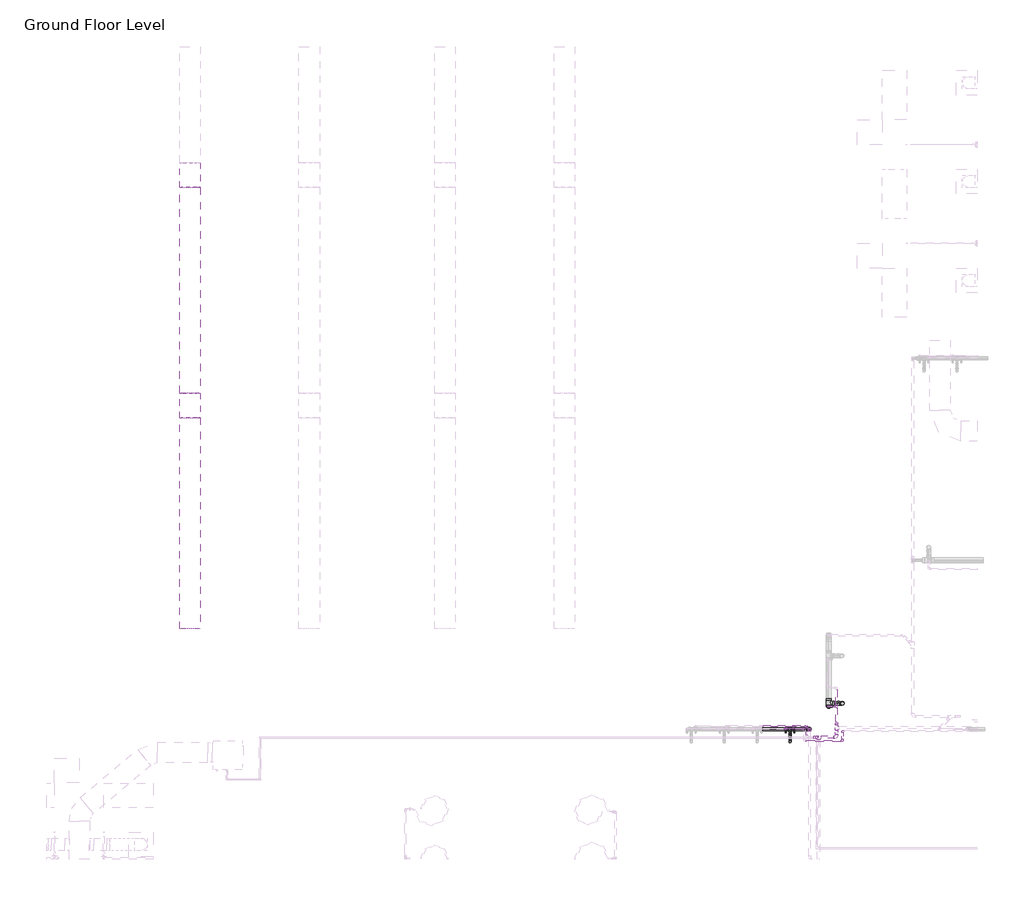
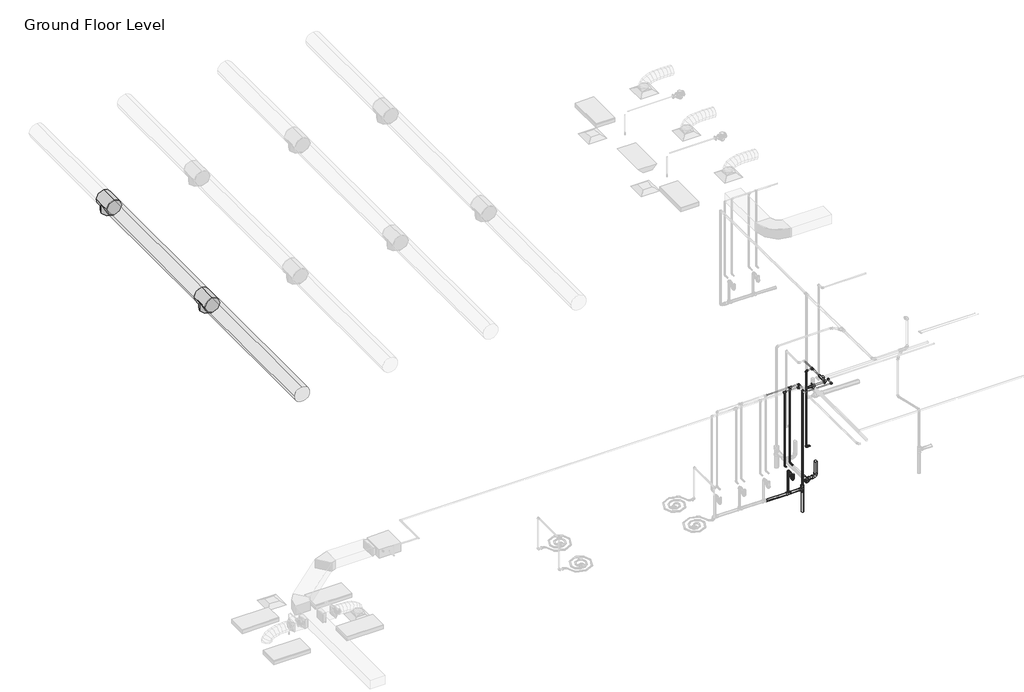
# One storey, part 8 of 72: 31 pipe fittings, 29 pipe segments, 2 duct fittings, 2 duct segments.
"""IFC4 building model written with IfcOpenShell, lengths in millimetres."""

from ifc_helpers import new_model, si_unit, point, frame, frame_2d, origin, place, context, project, spatial, circle_curve, trimmed, segment, composite_curve, outline, extrude, transform, mapped, element, save
from components import m_round_tee_standard_ed589d36, m_bend_pvc_sch_40_dwv_standard_a4b99d37, m_bend_pvc_sch_40_dwv_standard_1e7bdcc1, m_bend_pvc_sch_40_dwv_standard_776e50c4, m_bend_pvc_sch_40_dwv_standard_877aed9a, m_elbow_generic_standard_a088f956, m_elbow_generic_standard_2a704253, m_plug_pvc_sch_40_dwv_standard_6c40de1c, m_reducer_pvc_sch_40_dwv_standard_b84ad399, m_tee_reducing_sanitary_pvc_sch_40_dwv_standard_b49161a9, m_tee_reducing_sanitary_pvc_sch_40_dwv_standard_21d2848c, m_tee_reducing_sanitary_pvc_sch_40_dwv_standard_b574f8c1, standard_b266ab3f, standard_517a5a8d, standard_72b35c3b, standard_cd25fed3, standard_f1337950, standard_e954f56a, standard_57727813

model = new_model("IFC4")

# Units and contexts
model_context = context("Model", 3, world=origin())
ifc_project = project(units=[si_unit("LENGTHUNIT", "METRE", prefix="MILLI")], contexts=[model_context])

# Site, building, storey
site = spatial("IfcSite", under=ifc_project)
building = spatial("IfcBuilding", under=site)
storey = spatial("IfcBuildingStorey", under=building, Name="Ground Floor Level", Elevation=900.0)

# Duct fittings
placement = place(None, origin())
m_round_tee_standard_shape = m_round_tee_standard_ed589d36(model_context)
element("IfcDuctFitting", 1, ObjectType="M_Round Tee : Standard", at=placement, inside=storey, context=model_context, shape_type="MappedRepresentation", body=[
    mapped(m_round_tee_standard_shape, transform((-16150.3527512, -19404.784563, 7765.9063151), x_axis=(0.0, 0.9999999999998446, -5.576948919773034e-07), y_axis=(0.0, 5.576948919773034e-07, 0.9999999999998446), z_axis=(1.0, 0.0, 0.0))),
])
element("IfcDuctFitting", 2, ObjectType="M_Round Tee : Standard", at=placement, inside=storey, context=model_context, shape_type="MappedRepresentation", body=[
    mapped(m_round_tee_standard_shape, transform((-16150.3527512, -25004.784563, 7765.9094382), x_axis=(0.0, 0.9999999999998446, -5.576948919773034e-07), y_axis=(0.0, 5.576948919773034e-07, 0.9999999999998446), z_axis=(1.0, 0.0, 0.0))),
])

# Duct segments
element("IfcDuctSegment", 3, ObjectType="Tees", at=placement, inside=storey, context=model_context, shape_type="SweptSolid", body=[
    extrude(outline(composite_curve([segment(trimmed(circle_curve(frame_2d((7765.9092709, -16150.3527512)), 250.0), [point((7765.9092709, -15900.3527512))], [point((8015.9092709, -16150.3527512))], False, "CARTESIAN"), True, "CONTINUOUS"), segment(trimmed(circle_curve(frame_2d((7765.9092709, -16150.3527512)), 250.0), [point((8015.9092709, -16150.3527512))], [point((7765.9092709, -16400.3527512))], False, "CARTESIAN"), True, "CONTINUOUS"), segment(trimmed(circle_curve(frame_2d((7765.9092709, -16150.3527512)), 250.0), [point((7765.9092709, -16400.3527512))], [point((7515.9092709, -16150.3527512))], False, "CARTESIAN"), True, "CONTINUOUS"), segment(trimmed(circle_curve(frame_2d((7765.9092709, -16150.3527512)), 250.0), [point((7515.9092709, -16150.3527512))], [point((7765.9092709, -15900.3527512))], False, "CARTESIAN"), True, "CONTINUOUS")], self_intersect=False)), frame((0.0, -24704.784563, 0.0), z_axis=(0.0, 1.0, 0.0), x_axis=(0.0, 0.0, 1.0)), (0.0, 0.0, 1.0), 5000.0),
])
element("IfcDuctSegment", 4, ObjectType="Tees", at=placement, inside=storey, context=model_context, shape_type="SweptSolid", body=[
    extrude(outline(composite_curve([segment(trimmed(circle_curve(frame_2d((7765.9125, -16150.3527512)), 250.0), [point((7765.9125, -15900.3527512))], [point((8015.9125, -16150.3527512))], False, "CARTESIAN"), True, "CONTINUOUS"), segment(trimmed(circle_curve(frame_2d((7765.9125, -16150.3527512)), 250.0), [point((8015.9125, -16150.3527512))], [point((7765.9125, -16400.3527512))], False, "CARTESIAN"), True, "CONTINUOUS"), segment(trimmed(circle_curve(frame_2d((7765.9125, -16150.3527512)), 250.0), [point((7765.9125, -16400.3527512))], [point((7515.9125, -16150.3527512))], False, "CARTESIAN"), True, "CONTINUOUS"), segment(trimmed(circle_curve(frame_2d((7765.9125, -16150.3527512)), 250.0), [point((7515.9125, -16150.3527512))], [point((7765.9125, -15900.3527512))], False, "CARTESIAN"), True, "CONTINUOUS")], self_intersect=False)), frame((0.0, -30422.0587669, 0.0), z_axis=(0.0, 1.0, 0.0), x_axis=(0.0, 0.0, 1.0)), (0.0, 0.0, 1.0), 5117.2742039),
])

# Pipe fittings
m_bend_pvc_sch_40_dwv_standard_shape = m_bend_pvc_sch_40_dwv_standard_a4b99d37(model_context)
element("IfcPipeFitting", 5, ObjectType="M_Bend - PVC - Sch 40 - DWV : Standard", at=placement, inside=storey, context=model_context, shape_type="MappedRepresentation", body=[
    mapped(m_bend_pvc_sch_40_dwv_standard_shape, transform((-303.6900633, -32234.266625, 475.9254106), x_axis=(0.0, 0.0, -1.0), y_axis=(-1.0, 0.0, 0.0), z_axis=(0.0, 1.0, 0.0))),
])
m_bend_pvc_sch_40_dwv_standard_2_shape = m_bend_pvc_sch_40_dwv_standard_1e7bdcc1(model_context)
element("IfcPipeFitting", 6, ObjectType="M_Bend - PVC - Sch 40 - DWV : Standard", at=placement, inside=storey, context=model_context, shape_type="MappedRepresentation", body=[
    mapped(m_bend_pvc_sch_40_dwv_standard_2_shape, transform((-1573.215321, -32858.7119065, 1488.3035905), x_axis=(0.0, 0.9999500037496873, -0.009999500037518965), y_axis=(0.0, -0.009999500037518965, -0.9999500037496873), z_axis=(-1.0, 0.0, 0.0))),
])
element("IfcPipeFitting", 7, ObjectType="M_Bend - PVC - Sch 40 - DWV : Standard", at=placement, inside=storey, context=model_context, shape_type="MappedRepresentation", body=[
    mapped(m_bend_pvc_sch_40_dwv_standard_2_shape, transform((-1573.215321, -33168.3528578, 1345.0), x_axis=(0.0, -0.9999500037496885, 0.009999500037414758), y_axis=(0.0, 0.009999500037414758, 0.9999500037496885), z_axis=(-1.0, 0.0, 0.0))),
])
m_bend_pvc_sch_40_dwv_standard_3_shape = m_bend_pvc_sch_40_dwv_standard_776e50c4(model_context)
element("IfcPipeFitting", 8, ObjectType="M_Bend - PVC - Sch 40 - DWV : Standard", at=placement, inside=storey, context=model_context, shape_type="MappedRepresentation", body=[
    mapped(m_bend_pvc_sch_40_dwv_standard_3_shape, transform((-1573.215321, -33033.3528578, 1343.6), x_axis=(0.0, 0.9999500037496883, -0.009999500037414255), y_axis=(0.0, 0.009999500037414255, 0.9999500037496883), z_axis=(1.0, 0.0, 0.0))),
])
element("IfcPipeFitting", 9, ObjectType="M_Bend - PVC - Sch 40 - DWV : Standard", at=placement, inside=storey, context=model_context, shape_type="MappedRepresentation", body=[
    mapped(m_bend_pvc_sch_40_dwv_standard_3_shape, transform((-1573.215321, -33033.3528578, 1490.0), x_axis=(0.0, 0.0, 1.0), y_axis=(0.0, 1.0, 0.0), z_axis=(-1.0, 0.0, 0.0))),
])
m_bend_pvc_sch_40_dwv_standard_4_shape = m_bend_pvc_sch_40_dwv_standard_877aed9a(model_context)
element("IfcPipeFitting", 10, ObjectType="M_Bend - PVC - Sch 40 - DWV : Standard", at=placement, inside=storey, context=model_context, shape_type="MappedRepresentation", body=[
    mapped(m_bend_pvc_sch_40_dwv_standard_4_shape, transform((-1099.4034743, -32858.7119242, 4127.038), x_axis=(0.0, 0.0, 1.0), y_axis=(0.0, -1.0, 0.0), z_axis=(1.0, 0.0, 0.0))),
])
m_elbow_generic_standard_shape = m_elbow_generic_standard_a088f956(model_context)
element("IfcPipeFitting", 11, ObjectType="M_Elbow - Generic : Standard", at=placement, inside=storey, context=model_context, shape_type="MappedRepresentation", body=[
    mapped(m_elbow_generic_standard_shape, transform((-897.1048173, -33050.466218, 4390.0), x_axis=(0.0, 1.0, 0.0), y_axis=(-1.0, 0.0, 0.0), z_axis=(0.0, 0.0, 1.0))),
])
m_elbow_generic_standard_2_shape = m_elbow_generic_standard_2a704253(model_context)
element("IfcPipeFitting", 12, ObjectType="M_Elbow - Generic : Standard", at=placement, inside=storey, context=model_context, shape_type="MappedRepresentation", body=[
    mapped(m_elbow_generic_standard_2_shape, transform((-941.0095887, -33088.5402522, 4377.5), x_axis=(0.0, 1.0, 0.0), y_axis=(-1.0, 0.0, 0.0), z_axis=(0.0, 0.0, 1.0))),
])
m_plug_pvc_sch_40_dwv_standard_shape = m_plug_pvc_sch_40_dwv_standard_6c40de1c(model_context)
element("IfcPipeFitting", 13, ObjectType="M_Plug - PVC - Sch 40 - DWV : Standard", at=placement, inside=storey, context=model_context, shape_type="MappedRepresentation", body=[
    mapped(m_plug_pvc_sch_40_dwv_standard_shape, transform((-633.5600391, -32323.1621803, 476.8143661), x_axis=(0.0, -0.9999500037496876, 0.009999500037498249), y_axis=(1.0000000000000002, 0.0, 0.0), z_axis=(0.0, 0.009999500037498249, 0.9999500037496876))),
])
m_reducer_pvc_sch_40_dwv_standard_shape = m_reducer_pvc_sch_40_dwv_standard_b84ad399(model_context)
element("IfcPipeFitting", 14, ObjectType="M_Reducer - PVC - Sch 40 - DWV : Standard", at=placement, inside=storey, context=model_context, shape_type="MappedRepresentation", body=[
    mapped(m_reducer_pvc_sch_40_dwv_standard_shape, transform((-1099.4034743, -32858.6819272, 783.2824384), x_axis=(0.0, 0.0, 1.0), y_axis=(-1.0, 0.0, 0.0), z_axis=(0.0, -1.0, 0.0))),
])
m_tee_reducing_sanitary_pvc_sch_40_dwv_standard_shape = m_tee_reducing_sanitary_pvc_sch_40_dwv_standard_b49161a9(model_context)
element("IfcPipeFitting", 15, ObjectType="M_Tee Reducing Sanitary - PVC - Sch 40 - DWV : Standard", at=placement, inside=storey, context=model_context, shape_type="MappedRepresentation", body=[
    mapped(m_tee_reducing_sanitary_pvc_sch_40_dwv_standard_shape, transform((-633.5600391, -32234.266625, 475.9254106), x_axis=(0.0, -0.9999500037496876, 0.009999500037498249), y_axis=(-1.0000000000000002, 0.0, 0.0), z_axis=(0.0, -0.009999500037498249, -0.9999500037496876))),
])
m_tee_reducing_sanitary_pvc_sch_40_dwv_standard_2_shape = m_tee_reducing_sanitary_pvc_sch_40_dwv_standard_21d2848c(model_context)
element("IfcPipeFitting", 16, ObjectType="M_Tee Reducing Sanitary - PVC - Sch 40 - DWV : Standard", at=placement, inside=storey, context=model_context, shape_type="MappedRepresentation", body=[
    mapped(m_tee_reducing_sanitary_pvc_sch_40_dwv_standard_2_shape, transform((-1573.215321, -32858.7119065, 694.4349821), x_axis=(-0.9999500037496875, 0.0, 0.009999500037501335), y_axis=(-0.009999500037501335, 0.0, -0.9999500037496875), z_axis=(0.0, -1.0, 0.0))),
])
m_tee_reducing_sanitary_pvc_sch_40_dwv_standard_3_shape = m_tee_reducing_sanitary_pvc_sch_40_dwv_standard_b574f8c1(model_context)
element("IfcPipeFitting", 17, ObjectType="M_Tee Reducing Sanitary - PVC - Sch 40 - DWV : Standard", at=placement, inside=storey, context=model_context, shape_type="MappedRepresentation", body=[
    mapped(m_tee_reducing_sanitary_pvc_sch_40_dwv_standard_3_shape, transform((-1099.4034743, -32858.6819272, 689.7), x_axis=(0.0, 0.0, 1.0), y_axis=(1.0, 0.0, 0.0), z_axis=(0.0, 1.0, 0.0))),
])
standard_shape = standard_b266ab3f(model_context)
element("IfcPipeFitting", 18, ObjectType="M_Elbow - CPVC - Sch 40 : Standard", at=placement, inside=storey, context=model_context, shape_type="MappedRepresentation", body=[
    mapped(standard_shape, transform((-1468.9004005, -32789.6855451, 1690.0), x_axis=(0.0, 0.0, -1.0), y_axis=(0.0, -1.0, 0.0), z_axis=(-1.0, 0.0, 0.0))),
])
element("IfcPipeFitting", 19, ObjectType="M_Elbow - CPVC - Sch 40 : Standard", at=placement, inside=storey, context=model_context, shape_type="MappedRepresentation", body=[
    mapped(standard_shape, transform((-1677.5302417, -32850.870708, 1690.0), x_axis=(0.0, 0.0, -1.0), y_axis=(0.0, -1.0, 0.0), z_axis=(-1.0, 0.0, 0.0))),
])
standard_2_shape = standard_517a5a8d(model_context)
element("IfcPipeFitting", 20, ObjectType="M_Elbow - CPVC - Sch 40 : Standard", at=placement, inside=storey, context=model_context, shape_type="MappedRepresentation", body=[
    mapped(standard_2_shape, transform((-657.2327605, -32307.7053912, 1655.0), x_axis=(-1.0, 0.0, 0.0), y_axis=(0.0, 0.0, 1.0), z_axis=(0.0, 1.0, 0.0))),
])
element("IfcPipeFitting", 21, ObjectType="M_Elbow - CPVC - Sch 40 : Standard", at=placement, inside=storey, context=model_context, shape_type="MappedRepresentation", body=[
    mapped(standard_2_shape, transform((-657.2327605, -32307.7053912, 4300.0), x_axis=(0.0, 0.0, 1.0), y_axis=(1.0, 0.0, 0.0), z_axis=(0.0, 1.0, 0.0))),
])
element("IfcPipeFitting", 22, ObjectType="M_Elbow - CPVC - Sch 40 : Standard", at=placement, inside=storey, context=model_context, shape_type="MappedRepresentation", body=[
    mapped(standard_2_shape, transform((-1167.2327605, -32789.6855451, 4300.0), x_axis=(0.0, 1.0, 0.0), y_axis=(-1.0, 0.0, 0.0), z_axis=(0.0, 0.0, 1.0))),
])
element("IfcPipeFitting", 23, ObjectType="M_Elbow - CPVC - Sch 40 : Standard", at=placement, inside=storey, context=model_context, shape_type="MappedRepresentation", body=[
    mapped(standard_2_shape, transform((-299.4424198, -32905.870708, 4250.0), x_axis=(-1.0, 0.0, 0.0), y_axis=(0.0, -1.0, 0.0), z_axis=(0.0, 0.0, 1.0))),
])
element("IfcPipeFitting", 24, ObjectType="M_Elbow - CPVC - Sch 40 : Standard", at=placement, inside=storey, context=model_context, shape_type="MappedRepresentation", body=[
    mapped(standard_2_shape, transform((-299.4424198, -33150.870708, 4250.0), x_axis=(1.0, 0.0, 0.0), y_axis=(0.0, 1.0, 0.0), z_axis=(0.0, 0.0, 1.0))),
])
element("IfcPipeFitting", 25, ObjectType="M_Elbow - CPVC - Sch 40 : Standard", at=placement, inside=storey, context=model_context, shape_type="MappedRepresentation", body=[
    mapped(standard_2_shape, transform((-1219.9877664, -32850.870708, 4250.0), x_axis=(0.0, 1.0, 0.0), y_axis=(-1.0, 0.0, 0.0), z_axis=(0.0, 0.0, 1.0))),
])
standard_3_shape = standard_72b35c3b(model_context)
element("IfcPipeFitting", 26, ObjectType="M_Tee - CPVC - Sch 40 : Standard", at=placement, inside=storey, context=model_context, shape_type="MappedRepresentation", body=[
    mapped(standard_3_shape, transform((-447.2327605, -32307.7053912, 4300.0), x_axis=(0.0, 1.0, 0.0), y_axis=(1.0, 0.0, 0.0), z_axis=(0.0, 0.0, -1.0))),
])
element("IfcPipeFitting", 27, ObjectType="M_Tee - CPVC - Sch 40 : Standard", at=placement, inside=storey, context=model_context, shape_type="MappedRepresentation", body=[
    mapped(standard_3_shape, transform((-1468.9004005, -32789.6855451, 4300.0), x_axis=(1.0, 0.0, 0.0), y_axis=(0.0, 0.0, 1.0), z_axis=(0.0, -1.0, 0.0))),
])
element("IfcPipeFitting", 28, ObjectType="M_Tee - CPVC - Sch 40 : Standard", at=placement, inside=storey, context=model_context, shape_type="MappedRepresentation", body=[
    mapped(standard_3_shape, transform((-1677.5302417, -32850.870708, 4250.0), x_axis=(1.0, 0.0, 0.0), y_axis=(0.0, 0.0, 1.0), z_axis=(0.0, -1.0, 0.0))),
])
standard_4_shape = standard_cd25fed3(model_context)
element("IfcPipeFitting", 29, ObjectType="M_Tee - CPVC - Sch 40 : Standard", at=placement, inside=storey, context=model_context, shape_type="MappedRepresentation", body=[
    mapped(standard_4_shape, transform((-447.2327605, -32824.9853451, 4300.0), x_axis=(0.0, -1.0, 0.0), y_axis=(-1.0, 0.0, 0.0), z_axis=(0.0, 0.0, -1.0))),
])
element("IfcPipeFitting", 30, ObjectType="M_Tee - CPVC - Sch 40 : Standard", at=placement, inside=storey, context=model_context, shape_type="MappedRepresentation", body=[
    mapped(standard_4_shape, transform((-881.5205995, -33054.6855451, 4300.0), x_axis=(1.0, 0.0, 0.0), y_axis=(0.0, 1.0, 0.0), z_axis=(0.0, 0.0, 1.0))),
])
standard_5_shape = standard_f1337950(model_context)
element("IfcPipeFitting", 31, ObjectType="M_Coupling Reducing - CPVC - Sch 40 : Standard", at=placement, inside=storey, context=model_context, shape_type="MappedRepresentation", body=[
    mapped(standard_5_shape, transform((-948.1955995, -33054.6855451, 4300.0), x_axis=(-1.0, 0.0, 0.0), y_axis=(0.0, -1.0, 0.0), z_axis=(0.0, 0.0, 1.0))),
])
element("IfcPipeFitting", 32, ObjectType="M_Coupling Reducing - CPVC - Sch 40 : Standard", at=placement, inside=storey, context=model_context, shape_type="MappedRepresentation", body=[
    mapped(standard_5_shape, transform((-447.2327605, -32758.3103451, 4300.0), x_axis=(0.0, 1.0, 0.0), y_axis=(-1.0, 0.0, 0.0), z_axis=(0.0, 0.0, 1.0))),
])
standard_6_shape = standard_e954f56a(model_context)
element("IfcPipeFitting", 33, ObjectType="M_Coupling Reducing - CPVC - Sch 40 : Standard", at=placement, inside=storey, context=model_context, shape_type="MappedRepresentation", body=[
    mapped(standard_6_shape, transform((-1468.9004005, -32789.6855451, 4260.2998), x_axis=(0.0, 0.0, -1.0), y_axis=(1.0, 0.0, 0.0), z_axis=(0.0, -1.0, 0.0))),
])
element("IfcPipeFitting", 34, ObjectType="M_Coupling Reducing - CPVC - Sch 40 : Standard", at=placement, inside=storey, context=model_context, shape_type="MappedRepresentation", body=[
    mapped(standard_6_shape, transform((-1677.5302417, -32850.870708, 4210.2998), x_axis=(0.0, 0.0, -1.0), y_axis=(1.0, 0.0, 0.0), z_axis=(0.0, -1.0, 0.0))),
])
standard_7_shape = standard_57727813(model_context)
element("IfcPipeFitting", 35, ObjectType="M_Elbow - CPVC - Sch 40 : Standard", at=placement, inside=storey, context=model_context, shape_type="MappedRepresentation", body=[
    mapped(standard_7_shape, transform((-447.2327605, -33054.6855451, 4300.0), x_axis=(1.0, 0.0, 0.0), y_axis=(0.0, 1.0, 0.0), z_axis=(0.0, 0.0, 1.0))),
])

# Pipe segments
element("IfcPipeSegment", 36, ObjectType="CPVC", at=placement, inside=storey, context=model_context, shape_type="SweptSolid", body=[
    extrude(outline(composite_curve([segment(trimmed(circle_curve(frame_2d((4300.0, -447.2327605)), 16.7005), [point((4300.0, -463.9332605))], [point((4283.2995, -447.2327605))], False, "CARTESIAN"), True, "CONTINUOUS"), segment(trimmed(circle_curve(frame_2d((4300.0, -447.2327605)), 16.7005), [point((4283.2995, -447.2327605))], [point((4300.0, -430.5322605))], False, "CARTESIAN"), True, "CONTINUOUS"), segment(trimmed(circle_curve(frame_2d((4300.0, -447.2327605)), 16.7005), [point((4300.0, -430.5322605))], [point((4316.7005, -447.2327605))], False, "CARTESIAN"), True, "CONTINUOUS"), segment(trimmed(circle_curve(frame_2d((4300.0, -447.2327605)), 16.7005), [point((4316.7005, -447.2327605))], [point((4300.0, -463.9332605))], False, "CARTESIAN"), True, "CONTINUOUS")], self_intersect=False)), frame((0.0, -32678.5114701, 0.0), z_axis=(0.0, 1.0, 0.0), x_axis=(0.0, 0.0, 1.0)), (0.0, 0.0, 1.0), 331.1058789),
])
element("IfcPipeSegment", 37, ObjectType="CPVC", at=placement, inside=storey, context=model_context, shape_type="SweptSolid", body=[
    extrude(outline(composite_curve([segment(trimmed(circle_curve(frame_2d((-32307.7053912, 1655.0)), 16.7005), [point((-32291.0048912, 1655.0))], [point((-32307.7053912, 1638.2995))], False, "CARTESIAN"), True, "CONTINUOUS"), segment(trimmed(circle_curve(frame_2d((-32307.7053912, 1655.0)), 16.7005), [point((-32307.7053912, 1638.2995))], [point((-32324.4058912, 1655.0))], False, "CARTESIAN"), True, "CONTINUOUS"), segment(trimmed(circle_curve(frame_2d((-32307.7053912, 1655.0)), 16.7005), [point((-32324.4058912, 1655.0))], [point((-32307.7053912, 1671.7005))], False, "CARTESIAN"), True, "CONTINUOUS"), segment(trimmed(circle_curve(frame_2d((-32307.7053912, 1655.0)), 16.7005), [point((-32307.7053912, 1671.7005))], [point((-32291.0048912, 1655.0))], False, "CARTESIAN"), True, "CONTINUOUS")], self_intersect=False)), frame((-613.9702105, 0.0, 0.0), z_axis=(1.0, 0.0, 0.0), x_axis=(0.0, 1.0, 0.0)), (0.0, 0.0, 1.0), 76.73745),
])
element("IfcPipeSegment", 38, ObjectType="CPVC", at=placement, inside=storey, context=model_context, shape_type="SweptSolid", body=[
    extrude(outline(composite_curve([segment(trimmed(circle_curve(frame_2d((-32307.7053912, 4300.0)), 16.7005), [point((-32291.0048912, 4300.0))], [point((-32307.7053912, 4283.2995))], False, "CARTESIAN"), True, "CONTINUOUS"), segment(trimmed(circle_curve(frame_2d((-32307.7053912, 4300.0)), 16.7005), [point((-32307.7053912, 4283.2995))], [point((-32324.4058912, 4300.0))], False, "CARTESIAN"), True, "CONTINUOUS"), segment(trimmed(circle_curve(frame_2d((-32307.7053912, 4300.0)), 16.7005), [point((-32324.4058912, 4300.0))], [point((-32307.7053912, 4316.7005))], False, "CARTESIAN"), True, "CONTINUOUS"), segment(trimmed(circle_curve(frame_2d((-32307.7053912, 4300.0)), 16.7005), [point((-32307.7053912, 4316.7005))], [point((-32291.0048912, 4300.0))], False, "CARTESIAN"), True, "CONTINUOUS")], self_intersect=False)), frame((-613.9702105, 0.0, 0.0), z_axis=(1.0, 0.0, 0.0), x_axis=(0.0, 1.0, 0.0)), (0.0, 0.0, 1.0), 127.03725),
])
element("IfcPipeSegment", 39, ObjectType="CPVC", at=placement, inside=storey, context=model_context, shape_type="SweptSolid", body=[
    extrude(outline(composite_curve([segment(trimmed(circle_curve(frame_2d((-657.2327605, -32307.7053912)), 16.7005), [point((-673.9332605, -32307.7053912))], [point((-657.2327605, -32291.0048912))], False, "CARTESIAN"), True, "CONTINUOUS"), segment(trimmed(circle_curve(frame_2d((-657.2327605, -32307.7053912)), 16.7005), [point((-657.2327605, -32291.0048912))], [point((-640.5322605, -32307.7053912))], False, "CARTESIAN"), True, "CONTINUOUS"), segment(trimmed(circle_curve(frame_2d((-657.2327605, -32307.7053912)), 16.7005), [point((-640.5322605, -32307.7053912))], [point((-657.2327605, -32324.4058912))], False, "CARTESIAN"), True, "CONTINUOUS"), segment(trimmed(circle_curve(frame_2d((-657.2327605, -32307.7053912)), 16.7005), [point((-657.2327605, -32324.4058912))], [point((-673.9332605, -32307.7053912))], False, "CARTESIAN"), True, "CONTINUOUS")], self_intersect=False)), frame((0.0, 0.0, 1698.26255), z_axis=(0.0, 0.0, 1.0), x_axis=(1.0, 0.0, 0.0)), (0.0, 0.0, 1.0), 2558.4749),
])
element("IfcPipeSegment", 40, ObjectType="CPVC", at=placement, inside=storey, context=model_context, shape_type="SweptSolid", body=[
    extrude(outline(composite_curve([segment(trimmed(circle_curve(frame_2d((4300.0, -447.2327605)), 16.7005), [point((4300.0, -463.9332605))], [point((4283.2995, -447.2327605))], False, "CARTESIAN"), True, "CONTINUOUS"), segment(trimmed(circle_curve(frame_2d((4300.0, -447.2327605)), 16.7005), [point((4283.2995, -447.2327605))], [point((4300.0, -430.5322605))], False, "CARTESIAN"), True, "CONTINUOUS"), segment(trimmed(circle_curve(frame_2d((4300.0, -447.2327605)), 16.7005), [point((4300.0, -430.5322605))], [point((4316.7005, -447.2327605))], False, "CARTESIAN"), True, "CONTINUOUS"), segment(trimmed(circle_curve(frame_2d((4300.0, -447.2327605)), 16.7005), [point((4316.7005, -447.2327605))], [point((4300.0, -463.9332605))], False, "CARTESIAN"), True, "CONTINUOUS")], self_intersect=False)), frame((0.0, -32268.0051912, 0.0), z_axis=(0.0, 1.0, 0.0), x_axis=(0.0, 0.0, 1.0)), (0.0, 0.0, 1.0), 369.7572961),
])
element("IfcPipeSegment", 41, ObjectType="CPVC", at=placement, inside=storey, context=model_context, shape_type="SweptSolid", body=[
    extrude(outline(composite_curve([segment(trimmed(circle_curve(frame_2d((4300.0, -447.2327605)), 30.1625), [point((4300.0, -477.3952605))], [point((4269.8375, -447.2327605))], False, "CARTESIAN"), True, "CONTINUOUS"), segment(trimmed(circle_curve(frame_2d((4300.0, -447.2327605)), 30.1625), [point((4269.8375, -447.2327605))], [point((4300.0, -417.0702605))], False, "CARTESIAN"), True, "CONTINUOUS"), segment(trimmed(circle_curve(frame_2d((4300.0, -447.2327605)), 30.1625), [point((4300.0, -417.0702605))], [point((4330.1625, -447.2327605))], False, "CARTESIAN"), True, "CONTINUOUS"), segment(trimmed(circle_curve(frame_2d((4300.0, -447.2327605)), 30.1625), [point((4330.1625, -447.2327605))], [point((4300.0, -477.3952605))], False, "CARTESIAN"), True, "CONTINUOUS")], self_intersect=False)), frame((0.0, -32990.3917951, 0.0), z_axis=(0.0, 1.0, 0.0), x_axis=(0.0, 0.0, 1.0)), (0.0, 0.0, 1.0), 98.73145),
])
element("IfcPipeSegment", 42, ObjectType="CPVC", at=placement, inside=storey, context=model_context, shape_type="SweptSolid", body=[
    extrude(outline(composite_curve([segment(trimmed(circle_curve(frame_2d((4300.0, -1167.2327605)), 16.7005), [point((4300.0, -1150.5322605))], [point((4316.7005, -1167.2327605))], False, "CARTESIAN"), True, "CONTINUOUS"), segment(trimmed(circle_curve(frame_2d((4300.0, -1167.2327605)), 16.7005), [point((4316.7005, -1167.2327605))], [point((4300.0, -1183.9332605))], False, "CARTESIAN"), True, "CONTINUOUS"), segment(trimmed(circle_curve(frame_2d((4300.0, -1167.2327605)), 16.7005), [point((4300.0, -1183.9332605))], [point((4283.2995, -1167.2327605))], False, "CARTESIAN"), True, "CONTINUOUS"), segment(trimmed(circle_curve(frame_2d((4300.0, -1167.2327605)), 16.7005), [point((4283.2995, -1167.2327605))], [point((4300.0, -1150.5322605))], False, "CARTESIAN"), True, "CONTINUOUS")], self_intersect=False)), frame((0.0, -33011.4229951, 0.0), z_axis=(0.0, 1.0, 0.0), x_axis=(0.0, 0.0, 1.0)), (0.0, 0.0, 1.0), 178.4749),
])
element("IfcPipeSegment", 43, ObjectType="CPVC", at=placement, inside=storey, context=model_context, shape_type="SweptSolid", body=[
    extrude(outline(composite_curve([segment(trimmed(circle_curve(frame_2d((1690.0, -1468.9004005)), 13.335), [point((1690.0, -1482.2354005))], [point((1676.665, -1468.9004005))], False, "CARTESIAN"), True, "CONTINUOUS"), segment(trimmed(circle_curve(frame_2d((1690.0, -1468.9004005)), 13.335), [point((1676.665, -1468.9004005))], [point((1690.0, -1455.5654005))], False, "CARTESIAN"), True, "CONTINUOUS"), segment(trimmed(circle_curve(frame_2d((1690.0, -1468.9004005)), 13.335), [point((1690.0, -1455.5654005))], [point((1703.335, -1468.9004005))], False, "CARTESIAN"), True, "CONTINUOUS"), segment(trimmed(circle_curve(frame_2d((1690.0, -1468.9004005)), 13.335), [point((1703.335, -1468.9004005))], [point((1690.0, -1482.2354005))], False, "CARTESIAN"), True, "CONTINUOUS")], self_intersect=False)), frame((0.0, -32944.7846466, 0.0), z_axis=(0.0, 1.0, 0.0), x_axis=(0.0, 0.0, 1.0)), (0.0, 0.0, 1.0), 119.7740515),
])
element("IfcPipeSegment", 44, ObjectType="CPVC", at=placement, inside=storey, context=model_context, shape_type="SweptSolid", body=[
    extrude(outline(composite_curve([segment(trimmed(circle_curve(frame_2d((-1468.9004005, -32789.6855451)), 13.335), [point((-1455.5654005, -32789.6855451))], [point((-1468.9004005, -32803.0205451))], False, "CARTESIAN"), True, "CONTINUOUS"), segment(trimmed(circle_curve(frame_2d((-1468.9004005, -32789.6855451)), 13.335), [point((-1468.9004005, -32803.0205451))], [point((-1482.2354005, -32789.6855451))], False, "CARTESIAN"), True, "CONTINUOUS"), segment(trimmed(circle_curve(frame_2d((-1468.9004005, -32789.6855451)), 13.335), [point((-1482.2354005, -32789.6855451))], [point((-1468.9004005, -32776.3505451))], False, "CARTESIAN"), True, "CONTINUOUS"), segment(trimmed(circle_curve(frame_2d((-1468.9004005, -32789.6855451)), 13.335), [point((-1468.9004005, -32776.3505451))], [point((-1455.5654005, -32789.6855451))], False, "CARTESIAN"), True, "CONTINUOUS")], self_intersect=False)), frame((0.0, 0.0, 1725.32505), z_axis=(0.0, 0.0, 1.0), x_axis=(1.0, 0.0, 0.0)), (0.0, 0.0, 1.0), 2477.82475),
])
element("IfcPipeSegment", 45, ObjectType="CPVC", at=placement, inside=storey, context=model_context, shape_type="SweptSolid", body=[
    extrude(outline(composite_curve([segment(trimmed(circle_curve(frame_2d((-32789.6855451, 4300.0)), 16.7005), [point((-32772.9850451, 4300.0))], [point((-32789.6855451, 4283.2995))], False, "CARTESIAN"), True, "CONTINUOUS"), segment(trimmed(circle_curve(frame_2d((-32789.6855451, 4300.0)), 16.7005), [point((-32789.6855451, 4283.2995))], [point((-32806.3860451, 4300.0))], False, "CARTESIAN"), True, "CONTINUOUS"), segment(trimmed(circle_curve(frame_2d((-32789.6855451, 4300.0)), 16.7005), [point((-32806.3860451, 4300.0))], [point((-32789.6855451, 4316.7005))], False, "CARTESIAN"), True, "CONTINUOUS"), segment(trimmed(circle_curve(frame_2d((-32789.6855451, 4300.0)), 16.7005), [point((-32789.6855451, 4316.7005))], [point((-32772.9850451, 4300.0))], False, "CARTESIAN"), True, "CONTINUOUS")], self_intersect=False)), frame((-1429.2002005, 0.0, 0.0), z_axis=(1.0, 0.0, 0.0), x_axis=(0.0, 1.0, 0.0)), (0.0, 0.0, 1.0), 218.70489),
])
element("IfcPipeSegment", 46, ObjectType="CPVC", at=placement, inside=storey, context=model_context, shape_type="SweptSolid", body=[
    extrude(outline(composite_curve([segment(trimmed(circle_curve(frame_2d((-32789.6855451, 4300.0)), 16.7005), [point((-32772.9850451, 4300.0))], [point((-32789.6855451, 4283.2995))], False, "CARTESIAN"), True, "CONTINUOUS"), segment(trimmed(circle_curve(frame_2d((-32789.6855451, 4300.0)), 16.7005), [point((-32789.6855451, 4283.2995))], [point((-32806.3860451, 4300.0))], False, "CARTESIAN"), True, "CONTINUOUS"), segment(trimmed(circle_curve(frame_2d((-32789.6855451, 4300.0)), 16.7005), [point((-32806.3860451, 4300.0))], [point((-32789.6855451, 4316.7005))], False, "CARTESIAN"), True, "CONTINUOUS"), segment(trimmed(circle_curve(frame_2d((-32789.6855451, 4300.0)), 16.7005), [point((-32789.6855451, 4316.7005))], [point((-32772.9850451, 4300.0))], False, "CARTESIAN"), True, "CONTINUOUS")], self_intersect=False)), frame((-2229.2002005, 0.0, 0.0), z_axis=(1.0, 0.0, 0.0), x_axis=(0.0, 1.0, 0.0)), (0.0, 0.0, 1.0), 720.5996),
])
element("IfcPipeSegment", 47, ObjectType="CPVC", at=placement, inside=storey, context=model_context, shape_type="SweptSolid", body=[
    extrude(outline(composite_curve([segment(trimmed(circle_curve(frame_2d((-33054.6855451, 4300.0)), 30.1625), [point((-33024.5230451, 4300.0))], [point((-33054.6855451, 4269.8375))], False, "CARTESIAN"), True, "CONTINUOUS"), segment(trimmed(circle_curve(frame_2d((-33054.6855451, 4300.0)), 30.1625), [point((-33054.6855451, 4269.8375))], [point((-33084.8480451, 4300.0))], False, "CARTESIAN"), True, "CONTINUOUS"), segment(trimmed(circle_curve(frame_2d((-33054.6855451, 4300.0)), 30.1625), [point((-33084.8480451, 4300.0))], [point((-33054.6855451, 4330.1625))], False, "CARTESIAN"), True, "CONTINUOUS"), segment(trimmed(circle_curve(frame_2d((-33054.6855451, 4300.0)), 30.1625), [point((-33054.6855451, 4330.1625))], [point((-33024.5230451, 4300.0))], False, "CARTESIAN"), True, "CONTINUOUS")], self_intersect=False)), frame((-814.8455995, 0.0, 0.0), z_axis=(1.0, 0.0, 0.0), x_axis=(0.0, 1.0, 0.0)), (0.0, 0.0, 1.0), 303.319089),
])
element("IfcPipeSegment", 48, ObjectType="CPVC", at=placement, inside=storey, context=model_context, shape_type="SweptSolid", body=[
    extrude(outline(composite_curve([segment(trimmed(circle_curve(frame_2d((4250.0, -299.4424198)), 16.7005), [point((4250.0, -316.1429198))], [point((4233.2995, -299.4424198))], False, "CARTESIAN"), True, "CONTINUOUS"), segment(trimmed(circle_curve(frame_2d((4250.0, -299.4424198)), 16.7005), [point((4233.2995, -299.4424198))], [point((4250.0, -282.7419198))], False, "CARTESIAN"), True, "CONTINUOUS"), segment(trimmed(circle_curve(frame_2d((4250.0, -299.4424198)), 16.7005), [point((4250.0, -282.7419198))], [point((4266.7005, -299.4424198))], False, "CARTESIAN"), True, "CONTINUOUS"), segment(trimmed(circle_curve(frame_2d((4250.0, -299.4424198)), 16.7005), [point((4266.7005, -299.4424198))], [point((4250.0, -316.1429198))], False, "CARTESIAN"), True, "CONTINUOUS")], self_intersect=False)), frame((0.0, -33107.608158, 0.0), z_axis=(0.0, 1.0, 0.0), x_axis=(0.0, 0.0, 1.0)), (0.0, 0.0, 1.0), 158.4749),
])
element("IfcPipeSegment", 49, ObjectType="CPVC", at=placement, inside=storey, context=model_context, shape_type="SweptSolid", body=[
    extrude(outline(composite_curve([segment(trimmed(circle_curve(frame_2d((-33150.870708, 4250.0)), 16.7005), [point((-33134.170208, 4250.0))], [point((-33150.870708, 4233.2995))], False, "CARTESIAN"), True, "CONTINUOUS"), segment(trimmed(circle_curve(frame_2d((-33150.870708, 4250.0)), 16.7005), [point((-33150.870708, 4233.2995))], [point((-33167.571208, 4250.0))], False, "CARTESIAN"), True, "CONTINUOUS"), segment(trimmed(circle_curve(frame_2d((-33150.870708, 4250.0)), 16.7005), [point((-33167.571208, 4250.0))], [point((-33150.870708, 4266.7005))], False, "CARTESIAN"), True, "CONTINUOUS"), segment(trimmed(circle_curve(frame_2d((-33150.870708, 4250.0)), 16.7005), [point((-33150.870708, 4266.7005))], [point((-33134.170208, 4250.0))], False, "CARTESIAN"), True, "CONTINUOUS")], self_intersect=False)), frame((-1176.7252164, 0.0, 0.0), z_axis=(1.0, 0.0, 0.0), x_axis=(0.0, 1.0, 0.0)), (0.0, 0.0, 1.0), 834.0202466),
])
element("IfcPipeSegment", 50, ObjectType="CPVC", at=placement, inside=storey, context=model_context, shape_type="SweptSolid", body=[
    extrude(outline(composite_curve([segment(trimmed(circle_curve(frame_2d((1690.0, -1677.5302417)), 13.335), [point((1690.0, -1690.8652417))], [point((1676.665, -1677.5302417))], False, "CARTESIAN"), True, "CONTINUOUS"), segment(trimmed(circle_curve(frame_2d((1690.0, -1677.5302417)), 13.335), [point((1676.665, -1677.5302417))], [point((1690.0, -1664.1952417))], False, "CARTESIAN"), True, "CONTINUOUS"), segment(trimmed(circle_curve(frame_2d((1690.0, -1677.5302417)), 13.335), [point((1690.0, -1664.1952417))], [point((1703.335, -1677.5302417))], False, "CARTESIAN"), True, "CONTINUOUS"), segment(trimmed(circle_curve(frame_2d((1690.0, -1677.5302417)), 13.335), [point((1703.335, -1677.5302417))], [point((1690.0, -1690.8652417))], False, "CARTESIAN"), True, "CONTINUOUS")], self_intersect=False)), frame((0.0, -32944.7846466, 0.0), z_axis=(0.0, 1.0, 0.0), x_axis=(0.0, 0.0, 1.0)), (0.0, 0.0, 1.0), 58.5888886),
])
element("IfcPipeSegment", 51, ObjectType="CPVC", at=placement, inside=storey, context=model_context, shape_type="SweptSolid", body=[
    extrude(outline(composite_curve([segment(trimmed(circle_curve(frame_2d((-1677.5302417, -32850.870708)), 13.335), [point((-1664.1952417, -32850.870708))], [point((-1677.5302417, -32864.205708))], False, "CARTESIAN"), True, "CONTINUOUS"), segment(trimmed(circle_curve(frame_2d((-1677.5302417, -32850.870708)), 13.335), [point((-1677.5302417, -32864.205708))], [point((-1690.8652417, -32850.870708))], False, "CARTESIAN"), True, "CONTINUOUS"), segment(trimmed(circle_curve(frame_2d((-1677.5302417, -32850.870708)), 13.335), [point((-1690.8652417, -32850.870708))], [point((-1677.5302417, -32837.535708))], False, "CARTESIAN"), True, "CONTINUOUS"), segment(trimmed(circle_curve(frame_2d((-1677.5302417, -32850.870708)), 13.335), [point((-1677.5302417, -32837.535708))], [point((-1664.1952417, -32850.870708))], False, "CARTESIAN"), True, "CONTINUOUS")], self_intersect=False)), frame((0.0, 0.0, 1725.32505), z_axis=(0.0, 0.0, 1.0), x_axis=(1.0, 0.0, 0.0)), (0.0, 0.0, 1.0), 2427.82475),
])
element("IfcPipeSegment", 52, ObjectType="CPVC", at=placement, inside=storey, context=model_context, shape_type="SweptSolid", body=[
    extrude(outline(composite_curve([segment(trimmed(circle_curve(frame_2d((-32850.870708, 4250.0)), 16.7005), [point((-32834.170208, 4250.0))], [point((-32850.870708, 4233.2995))], False, "CARTESIAN"), True, "CONTINUOUS"), segment(trimmed(circle_curve(frame_2d((-32850.870708, 4250.0)), 16.7005), [point((-32850.870708, 4233.2995))], [point((-32867.571208, 4250.0))], False, "CARTESIAN"), True, "CONTINUOUS"), segment(trimmed(circle_curve(frame_2d((-32850.870708, 4250.0)), 16.7005), [point((-32867.571208, 4250.0))], [point((-32850.870708, 4266.7005))], False, "CARTESIAN"), True, "CONTINUOUS"), segment(trimmed(circle_curve(frame_2d((-32850.870708, 4250.0)), 16.7005), [point((-32850.870708, 4266.7005))], [point((-32834.170208, 4250.0))], False, "CARTESIAN"), True, "CONTINUOUS")], self_intersect=False)), frame((-1637.8300417, 0.0, 0.0), z_axis=(1.0, 0.0, 0.0), x_axis=(0.0, 1.0, 0.0)), (0.0, 0.0, 1.0), 374.5797253),
])
element("IfcPipeSegment", 53, ObjectType="PVC - DWV", at=placement, inside=storey, context=model_context, shape_type="SweptSolid", body=[
    extrude(outline(composite_curve([segment(trimmed(circle_curve(frame_2d((-303.6900633, -32234.266625)), 44.45), [point((-259.2400633, -32234.266625))], [point((-303.6900633, -32278.716625))], False, "CARTESIAN"), True, "CONTINUOUS"), segment(trimmed(circle_curve(frame_2d((-303.6900633, -32234.266625)), 44.45), [point((-303.6900633, -32278.716625))], [point((-348.1400633, -32234.266625))], False, "CARTESIAN"), True, "CONTINUOUS"), segment(trimmed(circle_curve(frame_2d((-303.6900633, -32234.266625)), 44.45), [point((-348.1400633, -32234.266625))], [point((-303.6900633, -32189.816625))], False, "CARTESIAN"), True, "CONTINUOUS"), segment(trimmed(circle_curve(frame_2d((-303.6900633, -32234.266625)), 44.45), [point((-303.6900633, -32189.816625))], [point((-259.2400633, -32234.266625))], False, "CARTESIAN"), True, "CONTINUOUS")], self_intersect=False)), frame((0.0, 0.0, 591.8256106), z_axis=(0.0, 0.0, 1.0), x_axis=(1.0, 0.0, 0.0)), (0.0, 0.0, 1.0), 398.1743894),
])
element("IfcPipeSegment", 54, ObjectType="PVC - DWV", at=placement, inside=storey, context=model_context, shape_type="SweptSolid", body=[
    extrude(outline(composite_curve([segment(trimmed(circle_curve(frame_2d((-32234.266625, 475.9254106)), 44.45), [point((-32189.816625, 475.9254106))], [point((-32234.266625, 431.4754106))], False, "CARTESIAN"), True, "CONTINUOUS"), segment(trimmed(circle_curve(frame_2d((-32234.266625, 475.9254106)), 44.45), [point((-32234.266625, 431.4754106))], [point((-32278.716625, 475.9254106))], False, "CARTESIAN"), True, "CONTINUOUS"), segment(trimmed(circle_curve(frame_2d((-32234.266625, 475.9254106)), 44.45), [point((-32278.716625, 475.9254106))], [point((-32234.266625, 520.3754106))], False, "CARTESIAN"), True, "CONTINUOUS"), segment(trimmed(circle_curve(frame_2d((-32234.266625, 475.9254106)), 44.45), [point((-32234.266625, 520.3754106))], [point((-32189.816625, 475.9254106))], False, "CARTESIAN"), True, "CONTINUOUS")], self_intersect=False)), frame((-504.9598391, 0.0, 0.0), z_axis=(1.0, 0.0, 0.0), x_axis=(0.0, 1.0, 0.0)), (0.0, 0.0, 1.0), 85.3695759),
])
element("IfcPipeSegment", 55, ObjectType="PVC - DWV", at=placement, inside=storey, context=model_context, shape_type="SweptSolid", body=[
    extrude(outline(composite_curve([segment(trimmed(circle_curve(frame_2d((0.0, -36.5125)), 36.5125), [point((0.3717178, -73.0231078))], [point((-36.5106078, -36.8842178))], False, "CARTESIAN"), True, "CONTINUOUS"), segment(trimmed(circle_curve(frame_2d((0.0, -36.5125)), 36.5125), [point((-36.5106078, -36.8842178))], [point((-0.3717177, -0.0018922))], False, "CARTESIAN"), True, "CONTINUOUS"), segment(trimmed(circle_curve(frame_2d((0.0, -36.5125)), 36.5125), [point((-0.3717177, -0.0018922))], [point((36.5106078, -36.1407822))], False, "CARTESIAN"), True, "CONTINUOUS"), segment(trimmed(circle_curve(frame_2d((0.0, -36.5125)), 36.5125), [point((36.5106078, -36.1407822))], [point((0.3717178, -73.0231078))], False, "CARTESIAN"), True, "CONTINUOUS")], self_intersect=False)), frame((-1199.366445, -32822.1713192, 691.0713289), z_axis=(-0.999950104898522, -0.00010169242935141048, 0.009988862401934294), x_axis=(0.009989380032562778, -0.010179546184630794, 0.999898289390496)), (0.0, 0.0, 1.0), 294.8044195),
])
element("IfcPipeSegment", 56, ObjectType="PVC - DWV", at=placement, inside=storey, context=model_context, shape_type="SweptSolid", body=[
    extrude(outline(composite_curve([segment(trimmed(circle_curve(frame_2d((-1573.215321, -33168.3528578)), 24.13), [point((-1597.345321, -33168.3528578))], [point((-1573.215321, -33144.2228578))], False, "CARTESIAN"), True, "CONTINUOUS"), segment(trimmed(circle_curve(frame_2d((-1573.215321, -33168.3528578)), 24.13), [point((-1573.215321, -33144.2228578))], [point((-1549.085321, -33168.3528578))], False, "CARTESIAN"), True, "CONTINUOUS"), segment(trimmed(circle_curve(frame_2d((-1573.215321, -33168.3528578)), 24.13), [point((-1549.085321, -33168.3528578))], [point((-1573.215321, -33192.4828578))], False, "CARTESIAN"), True, "CONTINUOUS"), segment(trimmed(circle_curve(frame_2d((-1573.215321, -33168.3528578)), 24.13), [point((-1573.215321, -33192.4828578))], [point((-1597.345321, -33168.3528578))], False, "CARTESIAN"), True, "CONTINUOUS")], self_intersect=False)), frame((0.0, 0.0, 1406.8998), z_axis=(0.0, 0.0, 1.0), x_axis=(1.0, 0.0, 0.0)), (0.0, 0.0, 1.0), 143.1002),
])
element("IfcPipeSegment", 57, ObjectType="PVC - DWV", at=placement, inside=storey, context=model_context, shape_type="SweptSolid", body=[
    extrude(outline(composite_curve([segment(trimmed(circle_curve(frame_2d((0.0, -24.1299999)), 24.13), [point((24.13, -24.1299999))], [point((0.0, -48.2599999))], False, "CARTESIAN"), True, "CONTINUOUS"), segment(trimmed(circle_curve(frame_2d((0.0, -24.1299999)), 24.13), [point((0.0, -48.2599999))], [point((-24.13, -24.1299999))], False, "CARTESIAN"), True, "CONTINUOUS"), segment(trimmed(circle_curve(frame_2d((0.0, -24.1299999)), 24.13), [point((-24.13, -24.1299999))], [point((0.0, 0.0))], False, "CARTESIAN"), True, "CONTINUOUS"), segment(trimmed(circle_curve(frame_2d((0.0, -24.1299999)), 24.13), [point((0.0, 0.0))], [point((24.13, -24.1299999))], False, "CARTESIAN"), True, "CONTINUOUS")], self_intersect=False)), frame((-1573.215321, -33095.0077751, 1368.3977556), z_axis=(0.0, -0.9999500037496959, 0.009999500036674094), x_axis=(1.0, 0.0, 0.0)), (0.0, 0.0, 1.0), 11.2076498),
])
element("IfcPipeSegment", 58, ObjectType="PVC - DWV", at=placement, inside=storey, context=model_context, shape_type="SweptSolid", body=[
    extrude(outline(composite_curve([segment(trimmed(circle_curve(frame_2d((-1573.215321, -33033.3528578)), 24.13), [point((-1597.345321, -33033.3528578))], [point((-1573.215321, -33009.2228578))], False, "CARTESIAN"), True, "CONTINUOUS"), segment(trimmed(circle_curve(frame_2d((-1573.215321, -33033.3528578)), 24.13), [point((-1573.215321, -33009.2228578))], [point((-1549.085321, -33033.3528578))], False, "CARTESIAN"), True, "CONTINUOUS"), segment(trimmed(circle_curve(frame_2d((-1573.215321, -33033.3528578)), 24.13), [point((-1549.085321, -33033.3528578))], [point((-1573.215321, -33057.4828578))], False, "CARTESIAN"), True, "CONTINUOUS"), segment(trimmed(circle_curve(frame_2d((-1573.215321, -33033.3528578)), 24.13), [point((-1573.215321, -33057.4828578))], [point((-1597.345321, -33033.3528578))], False, "CARTESIAN"), True, "CONTINUOUS")], self_intersect=False)), frame((0.0, 0.0, 1405.4998), z_axis=(0.0, 0.0, 1.0), x_axis=(1.0, 0.0, 0.0)), (0.0, 0.0, 1.0), 22.6004),
])
element("IfcPipeSegment", 59, ObjectType="PVC - DWV", at=placement, inside=storey, context=model_context, shape_type="SweptSolid", body=[
    extrude(outline(composite_curve([segment(trimmed(circle_curve(frame_2d((0.0, -24.13)), 24.13), [point((24.13, -24.13))], [point((0.0, -48.26))], False, "CARTESIAN"), True, "CONTINUOUS"), segment(trimmed(circle_curve(frame_2d((0.0, -24.13)), 24.13), [point((0.0, -48.26))], [point((-24.13, -24.13))], False, "CARTESIAN"), True, "CONTINUOUS"), segment(trimmed(circle_curve(frame_2d((0.0, -24.13)), 24.13), [point((-24.13, -24.13))], [point((0.0, 0.0))], False, "CARTESIAN"), True, "CONTINUOUS"), segment(trimmed(circle_curve(frame_2d((0.0, -24.13)), 24.13), [point((0.0, 0.0))], [point((24.13, -24.13))], False, "CARTESIAN"), True, "CONTINUOUS")], self_intersect=False)), frame((-1573.215321, -32920.3673239, 1513.0513511), z_axis=(0.0, -0.9999500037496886, 0.009999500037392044), x_axis=(1.0, 0.0, 0.0)), (0.0, 0.0, 1.0), 50.8495831),
])
element("IfcPipeSegment", 60, ObjectType="PVC - DWV", at=placement, inside=storey, context=model_context, shape_type="SweptSolid", body=[
    extrude(outline(composite_curve([segment(trimmed(circle_curve(frame_2d((-1573.215321, -32858.7119065)), 24.13), [point((-1597.345321, -32858.7119065))], [point((-1573.215321, -32834.5819065))], False, "CARTESIAN"), True, "CONTINUOUS"), segment(trimmed(circle_curve(frame_2d((-1573.215321, -32858.7119065)), 24.13), [point((-1573.215321, -32834.5819065))], [point((-1549.085321, -32858.7119065))], False, "CARTESIAN"), True, "CONTINUOUS"), segment(trimmed(circle_curve(frame_2d((-1573.215321, -32858.7119065)), 24.13), [point((-1549.085321, -32858.7119065))], [point((-1573.215321, -32882.8419065))], False, "CARTESIAN"), True, "CONTINUOUS"), segment(trimmed(circle_curve(frame_2d((-1573.215321, -32858.7119065)), 24.13), [point((-1573.215321, -32882.8419065))], [point((-1597.345321, -32858.7119065))], False, "CARTESIAN"), True, "CONTINUOUS")], self_intersect=False)), frame((0.0, 0.0, 775.2824384), z_axis=(0.0, 0.0, 1.0), x_axis=(1.0, 0.0, 0.0)), (0.0, 0.0, 1.0), 651.1213521),
])
element("IfcPipeSegment", 61, ObjectType="PVC - DWV", at=placement, inside=storey, context=model_context, shape_type="SweptSolid", body=[
    extrude(outline(composite_curve([segment(trimmed(circle_curve(frame_2d((-1099.4034743, -32858.6819272)), 36.5125), [point((-1062.8909743, -32858.6819272))], [point((-1099.4034743, -32895.1944272))], False, "CARTESIAN"), True, "CONTINUOUS"), segment(trimmed(circle_curve(frame_2d((-1099.4034743, -32858.6819272)), 36.5125), [point((-1099.4034743, -32895.1944272))], [point((-1135.9159743, -32858.6819272))], False, "CARTESIAN"), True, "CONTINUOUS"), segment(trimmed(circle_curve(frame_2d((-1099.4034743, -32858.6819272)), 36.5125), [point((-1135.9159743, -32858.6819272))], [point((-1099.4034743, -32822.1694272))], False, "CARTESIAN"), True, "CONTINUOUS"), segment(trimmed(circle_curve(frame_2d((-1099.4034743, -32858.6819272)), 36.5125), [point((-1099.4034743, -32822.1694272))], [point((-1062.8909743, -32858.6819272))], False, "CARTESIAN"), True, "CONTINUOUS")], self_intersect=False)), frame((0.0, 0.0, -100.0), z_axis=(0.0, 0.0, 1.0), x_axis=(1.0, 0.0, 0.0)), (0.0, 0.0, 1.0), 691.8868813),
])
element("IfcPipeSegment", 62, ObjectType="PVC - DWV", at=placement, inside=storey, context=model_context, shape_type="SweptSolid", body=[
    extrude(outline(composite_curve([segment(trimmed(circle_curve(frame_2d((0.0, -36.5125)), 36.5125), [point((0.0, -73.025))], [point((-36.5125, -36.5125))], False, "CARTESIAN"), True, "CONTINUOUS"), segment(trimmed(circle_curve(frame_2d((0.0, -36.5125)), 36.5125), [point((-36.5125, -36.5125))], [point((0.0, 0.0))], False, "CARTESIAN"), True, "CONTINUOUS"), segment(trimmed(circle_curve(frame_2d((0.0, -36.5125)), 36.5125), [point((0.0, 0.0))], [point((36.5125001, -36.5125))], False, "CARTESIAN"), True, "CONTINUOUS"), segment(trimmed(circle_curve(frame_2d((0.0, -36.5125)), 36.5125), [point((36.5125001, -36.5125))], [point((0.0, -73.025))], False, "CARTESIAN"), True, "CONTINUOUS")], self_intersect=False)), frame((-1632.6980903, -32822.1994065, 695.0298098), z_axis=(-0.9999500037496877, 0.0, 0.0099995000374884), x_axis=(0.0099995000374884, 0.0, 0.9999500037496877)), (0.0, 0.0, 1.0), 661.4911369),
])
element("IfcPipeSegment", 63, ObjectType="PVC - DWV", at=placement, inside=storey, context=model_context, shape_type="SweptSolid", body=[
    extrude(outline(composite_curve([segment(trimmed(circle_curve(frame_2d((-1099.4034743, -32858.6819272)), 36.5125), [point((-1135.9159743, -32858.6819272))], [point((-1099.4034743, -32822.1694272))], False, "CARTESIAN"), True, "CONTINUOUS"), segment(trimmed(circle_curve(frame_2d((-1099.4034743, -32858.6819272)), 36.5125), [point((-1099.4034743, -32822.1694272))], [point((-1062.8909743, -32858.6819272))], False, "CARTESIAN"), True, "CONTINUOUS"), segment(trimmed(circle_curve(frame_2d((-1099.4034743, -32858.6819272)), 36.5125), [point((-1062.8909743, -32858.6819272))], [point((-1099.4034743, -32895.1944272))], False, "CARTESIAN"), True, "CONTINUOUS"), segment(trimmed(circle_curve(frame_2d((-1099.4034743, -32858.6819272)), 36.5125), [point((-1099.4034743, -32895.1944272))], [point((-1135.9159743, -32858.6819272))], False, "CARTESIAN"), True, "CONTINUOUS")], self_intersect=False)), frame((0.0, 0.0, 764.0492095), z_axis=(0.0, 0.0, 1.0), x_axis=(1.0, 0.0, 0.0)), (0.0, 0.0, 1.0), 19.2332289),
])
element("IfcPipeSegment", 64, ObjectType="PVC - DWV", at=placement, inside=storey, context=model_context, shape_type="SweptSolid", body=[
    extrude(outline(composite_curve([segment(trimmed(circle_curve(frame_2d((0.0, 21.082)), 21.082), [point((-21.082, 21.082))], [point((0.0, 42.164))], False, "CARTESIAN"), True, "CONTINUOUS"), segment(trimmed(circle_curve(frame_2d((0.0, 21.082)), 21.082), [point((0.0, 42.164))], [point((21.082, 21.082))], False, "CARTESIAN"), True, "CONTINUOUS"), segment(trimmed(circle_curve(frame_2d((0.0, 21.082)), 21.082), [point((21.082, 21.082))], [point((0.0, 0.0))], False, "CARTESIAN"), True, "CONTINUOUS"), segment(trimmed(circle_curve(frame_2d((0.0, 21.082)), 21.082), [point((0.0, 0.0))], [point((-21.082, 21.082))], False, "CARTESIAN"), True, "CONTINUOUS")], self_intersect=False)), frame((-1099.4034743, -32879.7639272, 849.6883358), z_axis=(0.0, -9.315261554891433e-06, 0.9999999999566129), x_axis=(1.0, 0.0, 0.0)), (0.0, 0.0, 1.0), 3220.199468),
])

save(model, "model.ifc")
